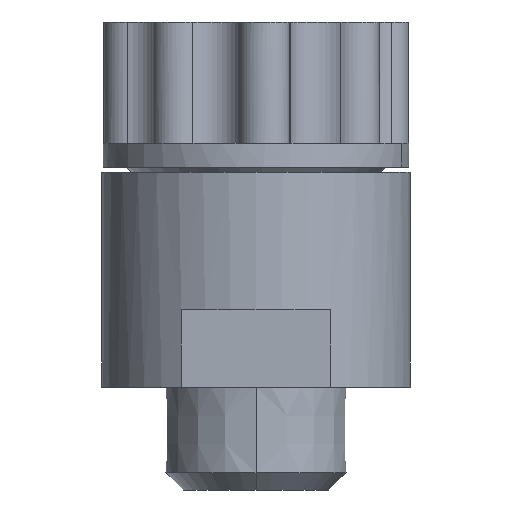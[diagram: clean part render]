
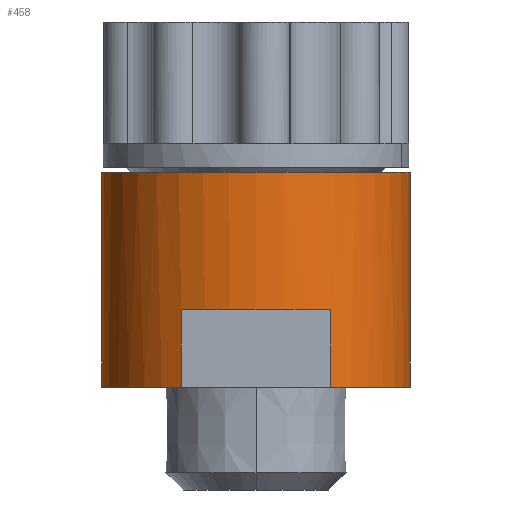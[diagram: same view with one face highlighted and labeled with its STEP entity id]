
A CAD part, front view. The second image highlights one B-rep face of the part: STEP entity #458.
In plain terms, the highlighted cylindrical face has radius 19.05 mm (diameter 38.1 mm), a partial arc.
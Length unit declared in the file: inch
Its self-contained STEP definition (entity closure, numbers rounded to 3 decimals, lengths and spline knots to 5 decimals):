
#38 = FACE_OUTER_BOUND ( 'NONE', #223, .T. ) ;
#43 = CYLINDRICAL_SURFACE ( 'NONE', #725, 0.75 ) ;
#51 = CIRCLE ( 'NONE', #733, 0.75 ) ;
#156 = ORIENTED_EDGE ( 'NONE', *, *, #865, .T. ) ;
#161 = ORIENTED_EDGE ( 'NONE', *, *, #839, .F. ) ;
#166 = VERTEX_POINT ( 'NONE', #1534 ) ;
#178 = ORIENTED_EDGE ( 'NONE', *, *, #877, .F. ) ;
#190 = ORIENTED_EDGE ( 'NONE', *, *, #845, .F. ) ;
#202 = ORIENTED_EDGE ( 'NONE', *, *, #631, .F. ) ;
#212 = VERTEX_POINT ( 'NONE', #1176 ) ;
#220 = VERTEX_POINT ( 'NONE', #1181 ) ;
#221 = ORIENTED_EDGE ( 'NONE', *, *, #869, .T. ) ;
#223 = EDGE_LOOP ( 'NONE', ( #178, #190, #221, #161, #156, #260, #263, #202 ) ) ;
#238 = VERTEX_POINT ( 'NONE', #1191 ) ;
#241 = VERTEX_POINT ( 'NONE', #1193 ) ;
#260 = ORIENTED_EDGE ( 'NONE', *, *, #879, .T. ) ;
#263 = ORIENTED_EDGE ( 'NONE', *, *, #886, .T. ) ;
#287 = VERTEX_POINT ( 'NONE', #478 ) ;
#288 = VERTEX_POINT ( 'NONE', #479 ) ;
#318 = CARTESIAN_POINT ( 'NONE',  ( -3.96362, -0.26536, -0.272 ) ) ;
#373 = CARTESIAN_POINT ( 'NONE',  ( -3.60007, 0.39064, -0.272 ) ) ;
#374 = DIRECTION ( 'NONE',  ( 0., 0., -1. ) ) ;
#375 = DIRECTION ( 'NONE',  ( 0., 1., 0. ) ) ;
#458 = ADVANCED_FACE ( 'NONE', ( #38 ), #43, .T. ) ;
#478 = CARTESIAN_POINT ( 'NONE',  ( -4.35007, 0.39064, -0.272 ) ) ;
#479 = CARTESIAN_POINT ( 'NONE',  ( -4.35007, 0.39064, 0.772 ) ) ;
#513 = DIRECTION ( 'NONE',  ( 0., 0., -1. ) ) ;
#514 = CARTESIAN_POINT ( 'NONE',  ( -3.60007, 0.39064, 0.772 ) ) ;
#631 = EDGE_CURVE ( 'NONE', #241, #220, #51, .T. ) ;
#725 = AXIS2_PLACEMENT_3D ( 'NONE', #514, #513, #1612 ) ;
#733 = AXIS2_PLACEMENT_3D ( 'NONE', #947, #948, #949 ) ;
#760 = AXIS2_PLACEMENT_3D ( 'NONE', #373, #374, #375 ) ;
#765 = AXIS2_PLACEMENT_3D ( 'NONE', #1082, #1083, #1084 ) ;
#787 = AXIS2_PLACEMENT_3D ( 'NONE', #1585, #1586, #1587 ) ;
#839 = EDGE_CURVE ( 'NONE', #1382, #287, #1234, .T. ) ;
#845 = EDGE_CURVE ( 'NONE', #288, #166, #1253, .T. ) ;
#865 = EDGE_CURVE ( 'NONE', #1382, #238, #1279, .T. ) ;
#869 = EDGE_CURVE ( 'NONE', #288, #287, #1280, .T. ) ;
#877 = EDGE_CURVE ( 'NONE', #166, #241, #1239, .T. ) ;
#879 = EDGE_CURVE ( 'NONE', #238, #212, #1241, .T. ) ;
#886 = EDGE_CURVE ( 'NONE', #212, #220, #1717, .T. ) ;
#947 = CARTESIAN_POINT ( 'NONE',  ( -3.60007, 0.39064, -0.272 ) ) ;
#948 = DIRECTION ( 'NONE',  ( 0., 0., -1. ) ) ;
#949 = DIRECTION ( 'NONE',  ( 0., 1., 0. ) ) ;
#1082 = CARTESIAN_POINT ( 'NONE',  ( -3.60007, 0.39064, 0.772 ) ) ;
#1083 = DIRECTION ( 'NONE',  ( 0., 0., 1. ) ) ;
#1084 = DIRECTION ( 'NONE',  ( 1., 0., 0. ) ) ;
#1176 = CARTESIAN_POINT ( 'NONE',  ( -3.23653, -0.26536, 0.103 ) ) ;
#1181 = CARTESIAN_POINT ( 'NONE',  ( -3.23653, -0.26536, -0.272 ) ) ;
#1191 = CARTESIAN_POINT ( 'NONE',  ( -3.96362, -0.26536, 0.103 ) ) ;
#1193 = CARTESIAN_POINT ( 'NONE',  ( -2.85007, 0.39064, -0.272 ) ) ;
#1234 = CIRCLE ( 'NONE', #760, 0.75 ) ;
#1239 = LINE ( 'NONE', #1575, #1240 ) ;
#1240 = VECTOR ( 'NONE', #1576, 39.37008 ) ;
#1241 = CIRCLE ( 'NONE', #787, 0.75 ) ;
#1244 = VECTOR ( 'NONE', #1554, 39.37008 ) ;
#1247 = VECTOR ( 'NONE', #1556, 39.37008 ) ;
#1253 = CIRCLE ( 'NONE', #765, 0.75 ) ;
#1279 = LINE ( 'NONE', #1547, #1244 ) ;
#1280 = LINE ( 'NONE', #1555, #1247 ) ;
#1382 = VERTEX_POINT ( 'NONE', #318 ) ;
#1534 = CARTESIAN_POINT ( 'NONE',  ( -2.85007, 0.39064, 0.772 ) ) ;
#1547 = CARTESIAN_POINT ( 'NONE',  ( -3.96362, -0.26536, 0.772 ) ) ;
#1554 = DIRECTION ( 'NONE',  ( 0., 0., 1. ) ) ;
#1555 = CARTESIAN_POINT ( 'NONE',  ( -4.35007, 0.39064, 0.772 ) ) ;
#1556 = DIRECTION ( 'NONE',  ( 0., 0., -1. ) ) ;
#1575 = CARTESIAN_POINT ( 'NONE',  ( -2.85007, 0.39064, 0.772 ) ) ;
#1576 = DIRECTION ( 'NONE',  ( 0., 0., -1. ) ) ;
#1585 = CARTESIAN_POINT ( 'NONE',  ( -3.60007, 0.39064, 0.103 ) ) ;
#1586 = DIRECTION ( 'NONE',  ( 0., 0., 1. ) ) ;
#1587 = DIRECTION ( 'NONE',  ( 1., 0., 0. ) ) ;
#1612 = DIRECTION ( 'NONE',  ( -1., 0., 0. ) ) ;
#1640 = CARTESIAN_POINT ( 'NONE',  ( -3.23653, -0.26536, 0.772 ) ) ;
#1641 = DIRECTION ( 'NONE',  ( 0., 0., -1. ) ) ;
#1715 = VECTOR ( 'NONE', #1641, 39.37008 ) ;
#1717 = LINE ( 'NONE', #1640, #1715 ) ;
